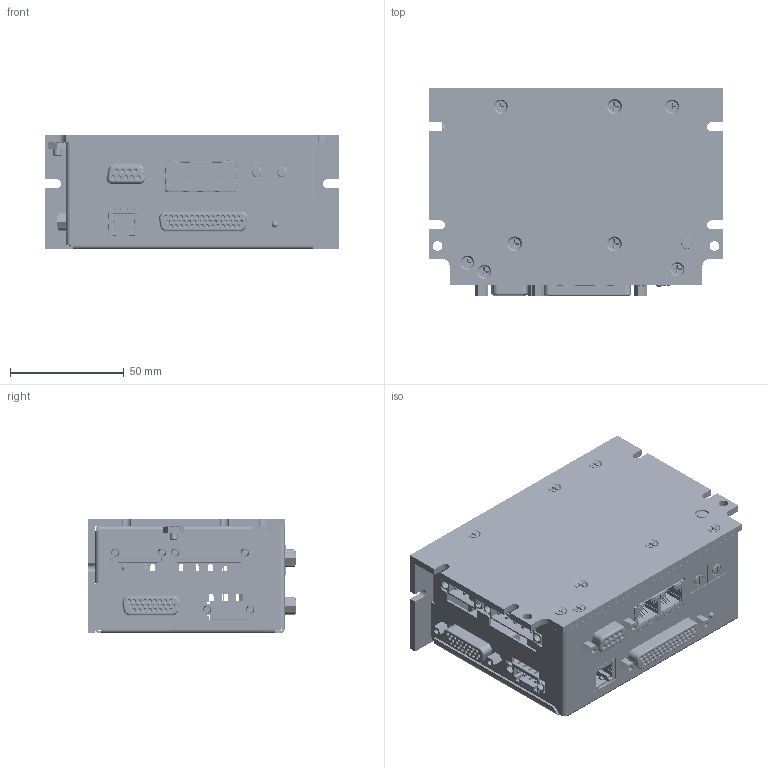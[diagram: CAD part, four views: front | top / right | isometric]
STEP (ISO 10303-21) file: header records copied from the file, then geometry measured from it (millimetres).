
FILE_DESCRIPTION (( 'STEP AP203' ), '1' );
FILE_NAME ('TEL.STEP', '2015-02-02T20:55:32', ( 'tempadmin' ), ( 'Microsoft' ), 'SwSTEP 2.0', 'SolidWorks 2014', '' );
FILE_SCHEMA (( 'CONFIG_CONTROL_DESIGN' ));
Length unit declared in the file: inch
Products named in the file (67): 101722; 100951_Item A; 6-79937-01; 3-76619_With Components; 100122; 100585_ITEM B; 103507; 21-04984-01_Item C; 101724; 100951_Item B; 18-901013; 10-76619-01_For Outline Drawing; 6-79476-01_Default<As Machined>; 100585; 152-004460; 6-79473-01; 21-04984-01; 101709; 100951_Item C; TEL; 13-000718; 101799; 21-04985-01_ITEM A; 152-004494; 152-004484; 21-04927-01; 3-76617_With Components; 100951; 15-003409; 6-79476-01; 21-04985-01_ITEM B; 6-79474-01; 152-004974; 101712; 10-76617-01; 21-04730-01_Item A; 153-003323_Item A; 6-79936-01; 21-04985-01_ITEM C; 18-1C1D04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
Assembly tree (198 placements, depth 4):
  TEL
    6-79473-01
      6-79473-01
      152-004484
      152-004974
    10-76619-01_For Outline Drawing
      3-76619
      100585
        100585_ITEM A
        100585_ITEM C  x8
        100585_ITEM B
      21-04985-01
        21-04985-01_ITEM A
        21-04985-01_ITEM B  x20
        21-04985-01_ITEM C  x2
        21-04985-01_ITEM D  x6
      152-004449  x3
      3-76619_With Components
    10-76617-01
      13-000718
      15-003409  x2
      153-003323
        153-003323_Item A
        153-003323_Item B
      49-680695
      100951
        100951_Item A
        100951_Item B  x2
        100951_Item C  x8
      21-04730-01
        21-04730-01_Item A
        21-04730-01_Item B  x2
        21-04730-01_Item C  x26
      101722
      101724
      101709
      3-76617_With Components
    10-76620-01
      3-76620
      15-003160
      21-04984-01
        21-04984-01_Item A  x2
        21-04984-01_Item B  x38
        21-04984-01_Item C  x2
      21-04927-01
      101712
      101711
      101814
      103278
    103507  x4
    152-004460
    152-004494  x3
    6-79474-01
    18-1C1D04  x4
    103143  x3
    18-141D04  x8
    18-600061
    100122
    6-79476-01
      6-79476-01_Default<As Machined>
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Bounding box: 129.03 x 91.61 x 50.42 mm (x, y, z)
Volume: 166936.4 mm3; surface area: 223511.2 mm2
Topology: 560 solids, 560 shells, 19189 faces, 48682 edges, 30918 vertices
Faces by surface type: plane 14798, cylinder 3423, cone 471, bspline 436, torus 61
Entity records: 412487 total; most frequent: CARTESIAN_POINT 77782, ORIENTED_EDGE 67524, DIRECTION 64338, EDGE_CURVE 33762, VECTOR 28326, LINE 28326, VERTEX_POINT 21469, AXIS2_PLACEMENT_3D 18006
